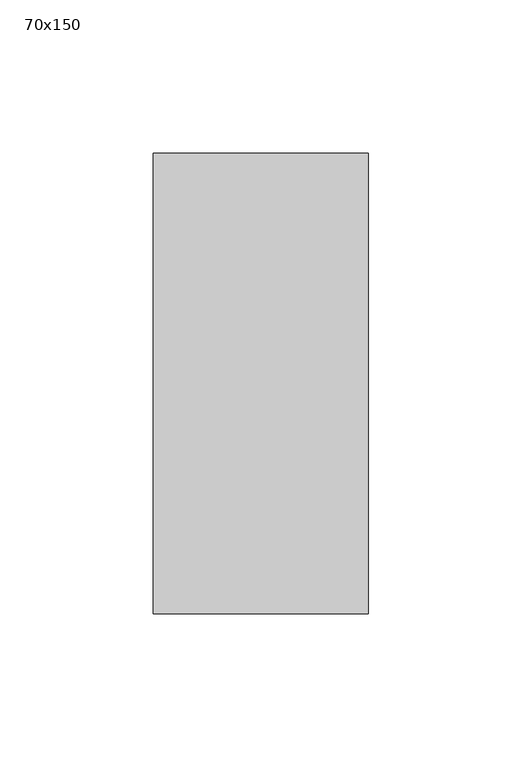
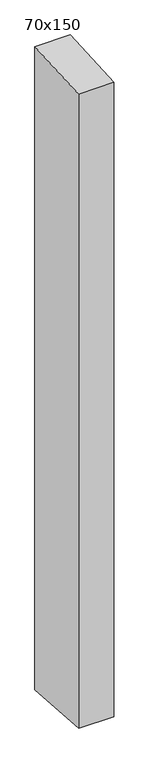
"""IFC4 building model written with IfcOpenShell, lengths in millimetres: member geometry, 長方形のマリオン : 70x150."""

from ifc_helpers import new_model, si_unit, frame, origin, place, context, project, spatial, polyline, outline, extrude, source, transform, mapped, element, save


def member_70x150_285ebe9a(model_context):
    return source(origin(), model_context, "Body", "SweptSolid", [
        extrude(outline(polyline([(-75.0, -4.2711403), (75.0, 4.2711403), (75.0, -1341.9833365), (-75.0, -1331.9292618), (-75.0, -4.2711403)])), frame((-70.0, 0.0, 0.0), z_axis=(1.0, 0.0, 0.0), x_axis=(0.0, 1.0, 0.0)), (0.0, 0.0, 1.0), 70.0),
    ])


if __name__ == "__main__":
    model = new_model("IFC4")
    model_context = context("Model", 3, world=origin())
    ifc_project = project(units=[si_unit("LENGTHUNIT", "METRE", prefix="MILLI")], contexts=[model_context])
    site = spatial("IfcSite", under=ifc_project)
    building = spatial("IfcBuilding", under=site)
    placement = place(None, origin())
    member_70x150_shape = member_70x150_285ebe9a(model_context)
    element("IfcMember", 1, ObjectType="長方形のマリオン : 70x150", at=placement, inside=building, context=model_context, shape_type="MappedRepresentation", body=[
        mapped(member_70x150_shape, transform((0.0, 0.0, 0.0), x_axis=(1.0, 0.0, 0.0), y_axis=(0.0, 1.0, 0.0), z_axis=(0.0, 0.0, 1.0))),
    ])
    save(model, "model.ifc")
